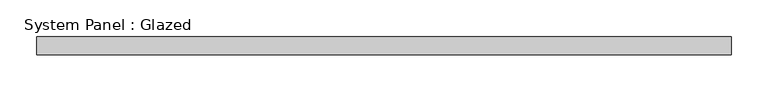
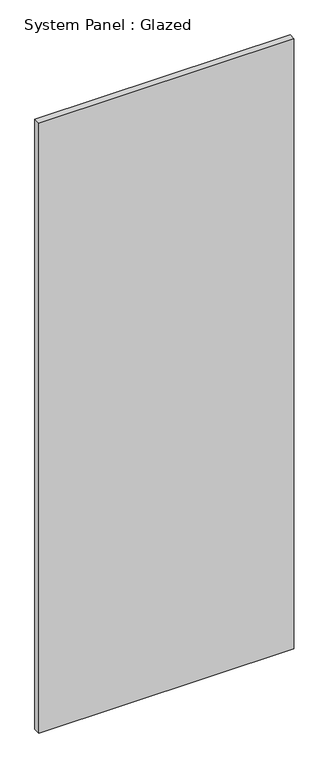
"""IFC4 building model written with IfcOpenShell, lengths in millimetres: plate geometry, System Panel : Glazed."""

from ifc_helpers import new_model, si_unit, origin, origin_with_axes, place, context, project, spatial, polyline, outline, extrude, source, transform, mapped, element, save


def system_panel_glazed_d56a7fb9(model_context):
    return source(origin(), model_context, "Body", "SweptSolid", [
        extrude(outline(polyline([(475.0000001, 24.5), (-475.0000001, 24.5), (-475.0000001, 49.5), (475.0000001, 49.5), (475.0000001, 24.5)])), origin_with_axes(), (0.0, 0.0, 1.0), 2400.0),
    ])


if __name__ == "__main__":
    model = new_model("IFC4")
    model_context = context("Model", 3, world=origin())
    ifc_project = project(units=[si_unit("LENGTHUNIT", "METRE", prefix="MILLI")], contexts=[model_context])
    site = spatial("IfcSite", under=ifc_project)
    building = spatial("IfcBuilding", under=site)
    placement = place(None, origin())
    system_panel_glazed_shape = system_panel_glazed_d56a7fb9(model_context)
    element("IfcPlate", 1, ObjectType="System Panel : Glazed", at=placement, inside=building, context=model_context, shape_type="MappedRepresentation", body=[
        mapped(system_panel_glazed_shape, transform((0.0, 0.0, 0.0), x_axis=(1.0, 0.0, 0.0), y_axis=(0.0, 1.0, 0.0), z_axis=(0.0, 0.0, 1.0))),
    ])
    save(model, "model.ifc")
